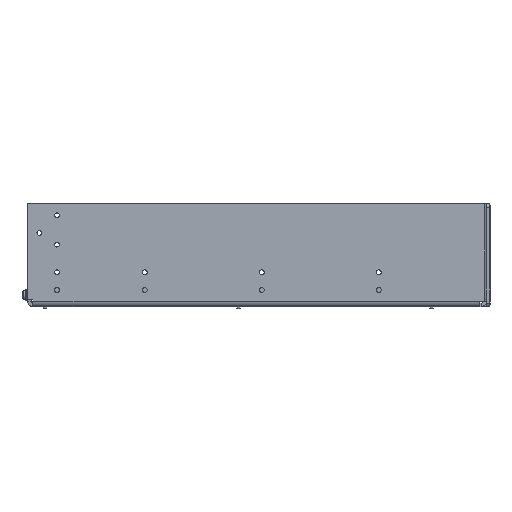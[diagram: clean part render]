
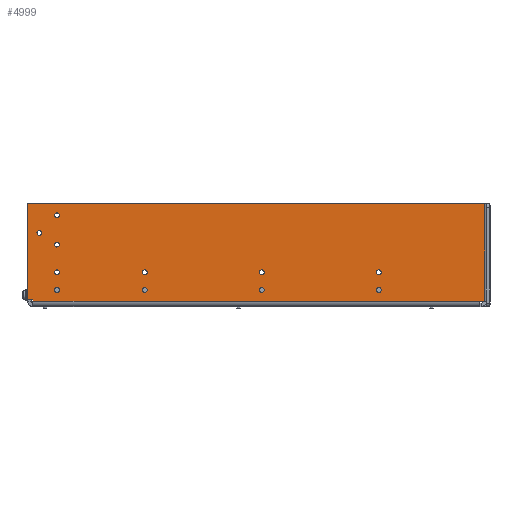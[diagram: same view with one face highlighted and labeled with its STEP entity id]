
A CAD part, left-side view. The second image highlights one B-rep face of the part: STEP entity #4999.
In plain terms, the highlighted planar face has unit normal (-1, 0, 0).
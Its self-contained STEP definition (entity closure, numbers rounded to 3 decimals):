
#458=FACE_BOUND('',#1021,.T.);
#459=FACE_BOUND('',#1022,.T.);
#460=FACE_BOUND('',#1023,.T.);
#461=FACE_BOUND('',#1024,.T.);
#462=FACE_BOUND('',#1025,.T.);
#463=FACE_BOUND('',#1026,.T.);
#464=FACE_BOUND('',#1027,.T.);
#465=FACE_BOUND('',#1028,.T.);
#466=FACE_BOUND('',#1029,.T.);
#467=FACE_BOUND('',#1030,.T.);
#468=FACE_BOUND('',#1031,.T.);
#573=PLANE('',#5502);
#740=FACE_OUTER_BOUND('',#1020,.T.);
#1020=EDGE_LOOP('',(#3715,#3716,#3717,#3718,#3719,#3720,#3721));
#1021=EDGE_LOOP('',(#3722));
#1022=EDGE_LOOP('',(#3723));
#1023=EDGE_LOOP('',(#3724));
#1024=EDGE_LOOP('',(#3725));
#1025=EDGE_LOOP('',(#3726));
#1026=EDGE_LOOP('',(#3727));
#1027=EDGE_LOOP('',(#3728));
#1028=EDGE_LOOP('',(#3729));
#1029=EDGE_LOOP('',(#3730));
#1030=EDGE_LOOP('',(#3731));
#1031=EDGE_LOOP('',(#3732));
#1393=LINE('',#7633,#1813);
#1395=LINE('',#7638,#1815);
#1398=LINE('',#7645,#1818);
#1401=LINE('',#7650,#1821);
#1409=LINE('',#7670,#1829);
#1410=LINE('',#7673,#1830);
#1411=LINE('',#7674,#1831);
#1813=VECTOR('',#6150,10.);
#1815=VECTOR('',#6154,10.);
#1818=VECTOR('',#6159,10.);
#1821=VECTOR('',#6164,10.);
#1829=VECTOR('',#6184,10.);
#1830=VECTOR('',#6187,10.);
#1831=VECTOR('',#6188,10.);
#2187=CIRCLE('',#5426,2.067);
#2189=CIRCLE('',#5429,2.067);
#2191=CIRCLE('',#5432,2.067);
#2193=CIRCLE('',#5435,2.067);
#2195=CIRCLE('',#5438,2.067);
#2197=CIRCLE('',#5441,2.067);
#2199=CIRCLE('',#5444,2.067);
#2201=CIRCLE('',#5447,2.067);
#2203=CIRCLE('',#5450,2.067);
#2205=CIRCLE('',#5453,2.067);
#2207=CIRCLE('',#5456,2.067);
#2444=VERTEX_POINT('',#7464);
#2446=VERTEX_POINT('',#7470);
#2448=VERTEX_POINT('',#7476);
#2450=VERTEX_POINT('',#7482);
#2452=VERTEX_POINT('',#7488);
#2454=VERTEX_POINT('',#7494);
#2456=VERTEX_POINT('',#7500);
#2458=VERTEX_POINT('',#7506);
#2460=VERTEX_POINT('',#7512);
#2462=VERTEX_POINT('',#7518);
#2464=VERTEX_POINT('',#7524);
#2497=VERTEX_POINT('',#7622);
#2498=VERTEX_POINT('',#7626);
#2500=VERTEX_POINT('',#7637);
#2501=VERTEX_POINT('',#7641);
#2503=VERTEX_POINT('',#7644);
#2510=VERTEX_POINT('',#7668);
#2511=VERTEX_POINT('',#7672);
#2864=EDGE_CURVE('',#2444,#2444,#2187,.T.);
#2867=EDGE_CURVE('',#2446,#2446,#2189,.T.);
#2870=EDGE_CURVE('',#2448,#2448,#2191,.T.);
#2873=EDGE_CURVE('',#2450,#2450,#2193,.T.);
#2876=EDGE_CURVE('',#2452,#2452,#2195,.T.);
#2879=EDGE_CURVE('',#2454,#2454,#2197,.T.);
#2882=EDGE_CURVE('',#2456,#2456,#2199,.T.);
#2885=EDGE_CURVE('',#2458,#2458,#2201,.T.);
#2888=EDGE_CURVE('',#2460,#2460,#2203,.T.);
#2891=EDGE_CURVE('',#2462,#2462,#2205,.T.);
#2894=EDGE_CURVE('',#2464,#2464,#2207,.T.);
#2947=EDGE_CURVE('',#2497,#2498,#1393,.T.);
#2949=EDGE_CURVE('',#2500,#2498,#1395,.T.);
#2952=EDGE_CURVE('',#2503,#2501,#1398,.T.);
#2955=EDGE_CURVE('',#2500,#2501,#1401,.T.);
#2966=EDGE_CURVE('',#2503,#2510,#1409,.T.);
#2967=EDGE_CURVE('',#2497,#2511,#1410,.T.);
#2968=EDGE_CURVE('',#2511,#2510,#1411,.T.);
#3715=ORIENTED_EDGE('',*,*,#2955,.F.);
#3716=ORIENTED_EDGE('',*,*,#2949,.T.);
#3717=ORIENTED_EDGE('',*,*,#2947,.F.);
#3718=ORIENTED_EDGE('',*,*,#2967,.T.);
#3719=ORIENTED_EDGE('',*,*,#2968,.T.);
#3720=ORIENTED_EDGE('',*,*,#2966,.F.);
#3721=ORIENTED_EDGE('',*,*,#2952,.T.);
#3722=ORIENTED_EDGE('',*,*,#2864,.T.);
#3723=ORIENTED_EDGE('',*,*,#2867,.T.);
#3724=ORIENTED_EDGE('',*,*,#2870,.T.);
#3725=ORIENTED_EDGE('',*,*,#2873,.T.);
#3726=ORIENTED_EDGE('',*,*,#2876,.T.);
#3727=ORIENTED_EDGE('',*,*,#2879,.T.);
#3728=ORIENTED_EDGE('',*,*,#2882,.T.);
#3729=ORIENTED_EDGE('',*,*,#2885,.T.);
#3730=ORIENTED_EDGE('',*,*,#2888,.T.);
#3731=ORIENTED_EDGE('',*,*,#2891,.T.);
#3732=ORIENTED_EDGE('',*,*,#2894,.T.);
#4999=ADVANCED_FACE('',(#740,#458,#459,#460,#461,#462,#463,#464,#465,#466,
#467,#468),#573,.T.);
#5426=AXIS2_PLACEMENT_3D('',#7466,#5970,#5971);
#5429=AXIS2_PLACEMENT_3D('',#7472,#5977,#5978);
#5432=AXIS2_PLACEMENT_3D('',#7478,#5984,#5985);
#5435=AXIS2_PLACEMENT_3D('',#7484,#5991,#5992);
#5438=AXIS2_PLACEMENT_3D('',#7490,#5998,#5999);
#5441=AXIS2_PLACEMENT_3D('',#7496,#6005,#6006);
#5444=AXIS2_PLACEMENT_3D('',#7502,#6012,#6013);
#5447=AXIS2_PLACEMENT_3D('',#7508,#6019,#6020);
#5450=AXIS2_PLACEMENT_3D('',#7514,#6026,#6027);
#5453=AXIS2_PLACEMENT_3D('',#7520,#6033,#6034);
#5456=AXIS2_PLACEMENT_3D('',#7526,#6040,#6041);
#5502=AXIS2_PLACEMENT_3D('',#7671,#6185,#6186);
#5970=DIRECTION('center_axis',(1.,0.,0.));
#5971=DIRECTION('ref_axis',(0.,0.,
1.));
#5977=DIRECTION('center_axis',(1.,0.,0.));
#5978=DIRECTION('ref_axis',(0.,0.,
1.));
#5984=DIRECTION('center_axis',(1.,0.,0.));
#5985=DIRECTION('ref_axis',(0.,0.,
1.));
#5991=DIRECTION('center_axis',(1.,0.,0.));
#5992=DIRECTION('ref_axis',(0.,0.,
1.));
#5998=DIRECTION('center_axis',(1.,0.,0.));
#5999=DIRECTION('ref_axis',(0.,0.,
1.));
#6005=DIRECTION('center_axis',(1.,0.,0.));
#6006=DIRECTION('ref_axis',(0.,0.,
1.));
#6012=DIRECTION('center_axis',(1.,0.,0.));
#6013=DIRECTION('ref_axis',(0.,0.,
1.));
#6019=DIRECTION('center_axis',(1.,0.,0.));
#6020=DIRECTION('ref_axis',(0.,0.,
1.));
#6026=DIRECTION('center_axis',(1.,0.,0.));
#6027=DIRECTION('ref_axis',(0.,0.,
1.));
#6033=DIRECTION('center_axis',(1.,0.,0.));
#6034=DIRECTION('ref_axis',(0.,0.,
1.));
#6040=DIRECTION('center_axis',(1.,0.,0.));
#6041=DIRECTION('ref_axis',(0.,0.,
1.));
#6150=DIRECTION('',(0.,0.,-1.));
#6154=DIRECTION('',(0.,-1.,0.));
#6159=DIRECTION('',(0.,0.,-1.));
#6164=DIRECTION('',(0.,1.,0.));
#6184=DIRECTION('',(0.,1.,0.));
#6185=DIRECTION('center_axis',(-1.,0.,0.));
#6186=DIRECTION('ref_axis',(0.,0.,1.));
#6187=DIRECTION('',(0.,1.,0.));
#6188=DIRECTION('',(0.,0.,-1.));
#7464=CARTESIAN_POINT('',(-223.,-104.,9.233));
#7466=CARTESIAN_POINT('Origin',(-223.,-104.,11.3));
#7470=CARTESIAN_POINT('',(-223.,-4.,9.233));
#7472=CARTESIAN_POINT('Origin',(-223.,-4.,11.3));
#7476=CARTESIAN_POINT('',(-223.,96.,9.233));
#7478=CARTESIAN_POINT('Origin',(-223.,96.,11.3));
#7482=CARTESIAN_POINT('',(-223.,171.,9.233));
#7484=CARTESIAN_POINT('Origin',(-223.,171.,11.3));
#7488=CARTESIAN_POINT('',(-223.,171.,47.933));
#7490=CARTESIAN_POINT('Origin',(-223.,171.,50.));
#7494=CARTESIAN_POINT('',(-223.,171.,72.933));
#7496=CARTESIAN_POINT('Origin',(-223.,171.,75.));
#7500=CARTESIAN_POINT('',(-223.,171.,24.233));
#7502=CARTESIAN_POINT('Origin',(-223.,171.,26.3));
#7506=CARTESIAN_POINT('',(-223.,96.,24.233));
#7508=CARTESIAN_POINT('Origin',(-223.,96.,26.3));
#7512=CARTESIAN_POINT('',(-223.,-4.,24.233));
#7514=CARTESIAN_POINT('Origin',(-223.,-4.,26.3));
#7518=CARTESIAN_POINT('',(-223.,-104.,24.233));
#7520=CARTESIAN_POINT('Origin',(-223.,-104.,26.3));
#7524=CARTESIAN_POINT('',(-223.,186.,57.933));
#7526=CARTESIAN_POINT('Origin',(-223.,186.,60.));
#7622=CARTESIAN_POINT('',(-223.,-194.5,85.));
#7626=CARTESIAN_POINT('',(-223.,-194.5,1.5));
#7633=CARTESIAN_POINT('',(-223.,-194.5,85.));
#7637=CARTESIAN_POINT('',(-223.,-190.,1.5));
#7638=CARTESIAN_POINT('',(-223.,-190.,1.5));
#7641=CARTESIAN_POINT('',(-223.,191.5,1.5));
#7644=CARTESIAN_POINT('',(-223.,191.5,3.));
#7645=CARTESIAN_POINT('',(-223.,191.5,-2.93));
#7650=CARTESIAN_POINT('',(-223.,1.489,1.5));
#7668=CARTESIAN_POINT('',(-223.,196.,3.));
#7670=CARTESIAN_POINT('',(-223.,97.239,3.));
#7671=CARTESIAN_POINT('Origin',(-223.,2.979,41.056));
#7672=CARTESIAN_POINT('',(-223.,196.,85.));
#7673=CARTESIAN_POINT('',(-223.,-190.,85.));
#7674=CARTESIAN_POINT('',(-223.,196.,1.5));
